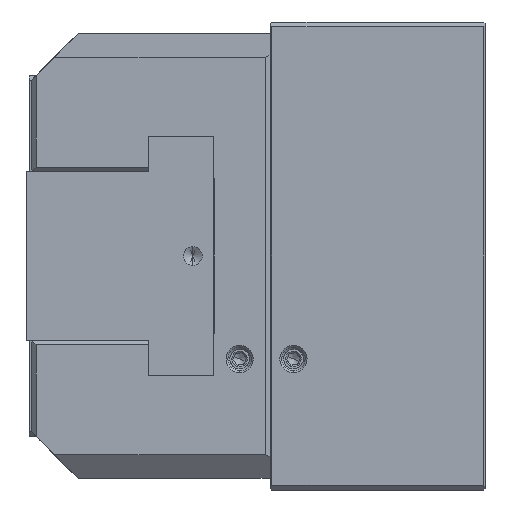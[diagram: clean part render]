
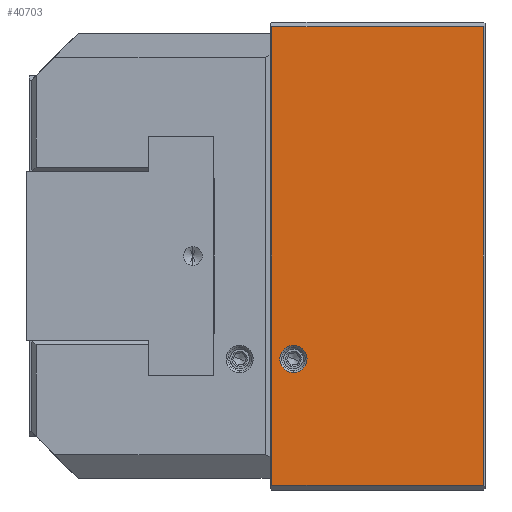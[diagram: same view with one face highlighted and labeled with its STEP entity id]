
A CAD part, left-side view. The second image highlights one B-rep face of the part: STEP entity #40703.
In plain terms, the highlighted planar face has unit normal (-1, 0, 0).
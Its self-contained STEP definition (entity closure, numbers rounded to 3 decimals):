
#6240 = VERTEX_POINT ( 'NONE', #41342 ) ;
#6618 = CARTESIAN_POINT ( 'NONE',  ( -72.5, -46., 49. ) ) ;
#7595 = VERTEX_POINT ( 'NONE', #40941 ) ;
#9108 = EDGE_CURVE ( 'NONE', #52603, #6240, #44687, .T. ) ;
#9534 = VECTOR ( 'NONE', #35904, 1000. ) ;
#10092 = FACE_BOUND ( 'NONE', #26652, .T. ) ;
#10943 = CARTESIAN_POINT ( 'NONE',  ( -72.5, -5., -24.9 ) ) ;
#13245 = CARTESIAN_POINT ( 'NONE',  ( -72.5, -45.6, 49. ) ) ;
#13305 = CARTESIAN_POINT ( 'NONE',  ( -72.5, -46., -49. ) ) ;
#13863 = EDGE_CURVE ( 'NONE', #28753, #52603, #55591, .T. ) ;
#13875 = ORIENTED_EDGE ( 'NONE', *, *, #21732, .F. ) ;
#20580 = DIRECTION ( 'NONE',  ( 0., 1., 0. ) ) ;
#21732 = EDGE_CURVE ( 'NONE', #30435, #6240, #55797, .T. ) ;
#22388 = AXIS2_PLACEMENT_3D ( 'NONE', #52367, #56390, #26243 ) ;
#22460 = CARTESIAN_POINT ( 'NONE',  ( -72.5, -5., -22. ) ) ;
#22572 = CARTESIAN_POINT ( 'NONE',  ( -72.5, -0.4, 49. ) ) ;
#24153 = FACE_OUTER_BOUND ( 'NONE', #50885, .T. ) ;
#26243 = DIRECTION ( 'NONE',  ( 0., 0., 1. ) ) ;
#26652 = EDGE_LOOP ( 'NONE', ( #53084, #51138 ) ) ;
#28753 = VERTEX_POINT ( 'NONE', #41227 ) ;
#30435 = VERTEX_POINT ( 'NONE', #47060 ) ;
#31383 = VECTOR ( 'NONE', #38885, 1000. ) ;
#33535 = CARTESIAN_POINT ( 'NONE',  ( -72.5, -46., 49. ) ) ;
#34116 = ORIENTED_EDGE ( 'NONE', *, *, #9108, .T. ) ;
#35013 = EDGE_CURVE ( 'NONE', #7595, #39688, #45265, .T. ) ;
#35489 = ORIENTED_EDGE ( 'NONE', *, *, #13863, .T. ) ;
#35531 = DIRECTION ( 'NONE',  ( 0., 0., -1. ) ) ;
#35904 = DIRECTION ( 'NONE',  ( 0., 0., 1. ) ) ;
#36515 = DIRECTION ( 'NONE',  ( -1., 0., 0. ) ) ;
#36829 = VECTOR ( 'NONE', #35531, 1000. ) ;
#36901 = ORIENTED_EDGE ( 'NONE', *, *, #47962, .T. ) ;
#38555 = AXIS2_PLACEMENT_3D ( 'NONE', #6618, #36515, #45949 ) ;
#38885 = DIRECTION ( 'NONE',  ( 0., 1., 0. ) ) ;
#39688 = VERTEX_POINT ( 'NONE', #10943 ) ;
#40703 = ADVANCED_FACE ( 'NONE', ( #10092, #24153 ), #45667, .T. ) ;
#40941 = CARTESIAN_POINT ( 'NONE',  ( -72.5, -5., -19.1 ) ) ;
#41227 = CARTESIAN_POINT ( 'NONE',  ( -72.5, -45.6, 49. ) ) ;
#41342 = CARTESIAN_POINT ( 'NONE',  ( -72.5, -0.4, -49. ) ) ;
#42263 = AXIS2_PLACEMENT_3D ( 'NONE', #22460, #45373, #53736 ) ;
#44687 = LINE ( 'NONE', #53589, #36829 ) ;
#44787 = LINE ( 'NONE', #13245, #9534 ) ;
#45265 = CIRCLE ( 'NONE', #22388, 2.9 ) ;
#45373 = DIRECTION ( 'NONE',  ( -1., 0., 0. ) ) ;
#45667 = PLANE ( 'NONE',  #38555 ) ;
#45949 = DIRECTION ( 'NONE',  ( 0., 0., 1. ) ) ;
#47032 = EDGE_CURVE ( 'NONE', #39688, #7595, #53240, .T. ) ;
#47060 = CARTESIAN_POINT ( 'NONE',  ( -72.5, -45.6, -49. ) ) ;
#47962 = EDGE_CURVE ( 'NONE', #30435, #28753, #44787, .T. ) ;
#50885 = EDGE_LOOP ( 'NONE', ( #35489, #34116, #13875, #36901 ) ) ;
#51138 = ORIENTED_EDGE ( 'NONE', *, *, #47032, .F. ) ;
#52367 = CARTESIAN_POINT ( 'NONE',  ( -72.5, -5., -22. ) ) ;
#52603 = VERTEX_POINT ( 'NONE', #22572 ) ;
#53084 = ORIENTED_EDGE ( 'NONE', *, *, #35013, .F. ) ;
#53240 = CIRCLE ( 'NONE', #42263, 2.9 ) ;
#53589 = CARTESIAN_POINT ( 'NONE',  ( -72.5, -0.4, -49. ) ) ;
#53736 = DIRECTION ( 'NONE',  ( 0., 0., 1. ) ) ;
#55591 = LINE ( 'NONE', #33535, #56182 ) ;
#55797 = LINE ( 'NONE', #13305, #31383 ) ;
#56182 = VECTOR ( 'NONE', #20580, 1000. ) ;
#56390 = DIRECTION ( 'NONE',  ( -1., 0., 0. ) ) ;
